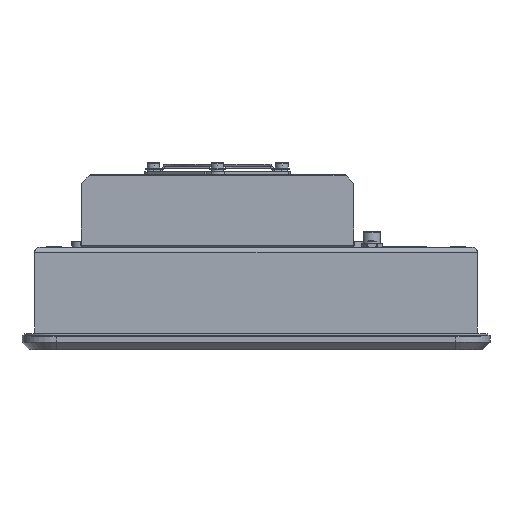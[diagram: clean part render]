
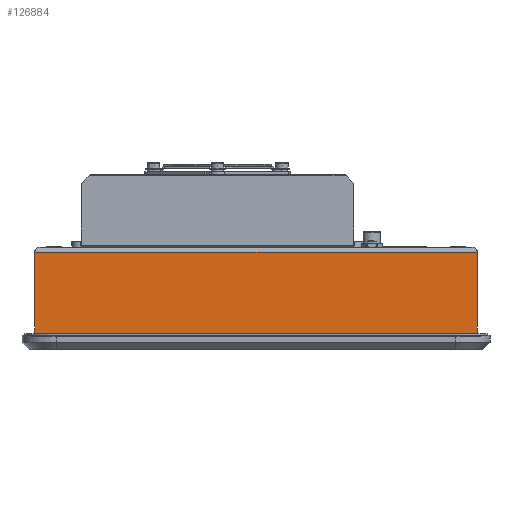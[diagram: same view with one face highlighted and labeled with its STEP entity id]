
A CAD part, left-side view. The second image highlights one B-rep face of the part: STEP entity #126884.
In plain terms, the highlighted planar face has unit normal (-1, 0, 0).
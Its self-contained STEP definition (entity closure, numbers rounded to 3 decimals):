
#8987=PLANE('',#134449);
#14013=LINE('',#185047,#26331);
#14016=LINE('',#185053,#26334);
#14017=LINE('',#185055,#26335);
#14018=LINE('',#185056,#26336);
#26331=VECTOR('',#147666,10.);
#26334=VECTOR('',#147671,10.);
#26335=VECTOR('',#147672,10.);
#26336=VECTOR('',#147673,10.);
#39507=FACE_OUTER_BOUND('',#46206,.T.);
#46206=EDGE_LOOP('',(#95762,#95763,#95764,#95765));
#60316=VERTEX_POINT('',#185043);
#60318=VERTEX_POINT('',#185046);
#60320=VERTEX_POINT('',#185052);
#60321=VERTEX_POINT('',#185054);
#73976=EDGE_CURVE('',#60318,#60316,#14013,.T.);
#73979=EDGE_CURVE('',#60320,#60316,#14016,.T.);
#73980=EDGE_CURVE('',#60321,#60320,#14017,.T.);
#73981=EDGE_CURVE('',#60318,#60321,#14018,.T.);
#95762=ORIENTED_EDGE('',*,*,#73979,.F.);
#95763=ORIENTED_EDGE('',*,*,#73980,.F.);
#95764=ORIENTED_EDGE('',*,*,#73981,.F.);
#95765=ORIENTED_EDGE('',*,*,#73976,.T.);
#126884=ADVANCED_FACE('',(#39507),#8987,.T.);
#134449=AXIS2_PLACEMENT_3D('',#185051,#147669,#147670);
#147666=DIRECTION('',(0.,0.,-1.));
#147669=DIRECTION('center_axis',(-1.,0.,0.));
#147670=DIRECTION('ref_axis',(0.,0.,
-1.));
#147671=DIRECTION('',(0.,1.,0.));
#147672=DIRECTION('',(0.,0.,-1.));
#147673=DIRECTION('',(0.,-1.,0.));
#185043=CARTESIAN_POINT('',(-189.15,121.9,5.5));
#185046=CARTESIAN_POINT('',(-189.15,121.9,51.));
#185047=CARTESIAN_POINT('',(-189.15,121.9,51.));
#185051=CARTESIAN_POINT('Origin',(-189.15,0.,
29.438));
#185052=CARTESIAN_POINT('',(-189.15,-121.9,5.5));
#185053=CARTESIAN_POINT('',(-189.15,0.,5.5));
#185054=CARTESIAN_POINT('',(-189.15,-121.9,51.));
#185055=CARTESIAN_POINT('',(-189.15,-121.9,51.));
#185056=CARTESIAN_POINT('',(-189.15,0.,51.));
